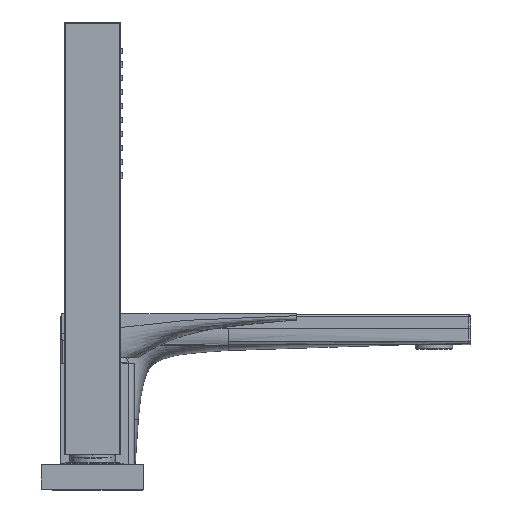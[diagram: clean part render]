
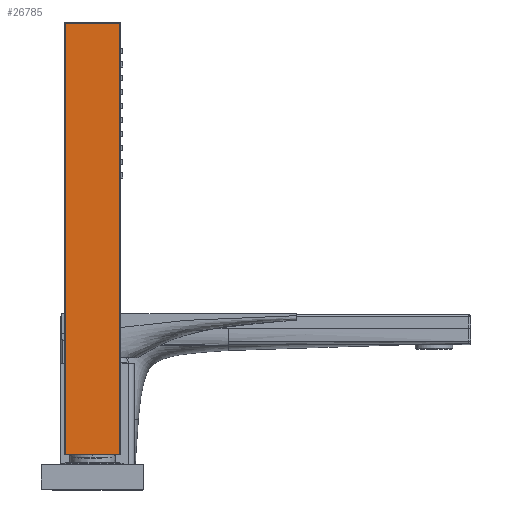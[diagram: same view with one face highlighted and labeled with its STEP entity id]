
A CAD part, top view. The second image highlights one B-rep face of the part: STEP entity #26785.
In plain terms, the highlighted planar face has unit normal (0, 0, 1).
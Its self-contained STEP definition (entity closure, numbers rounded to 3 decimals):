
#23515=DIRECTION('',(1.,0.,0.));
#23516=VECTOR('',#23515,26.5);
#23517=CARTESIAN_POINT('',(-15.75,17.,193.75));
#23518=LINE('',#23517,#23516);
#23529=DIRECTION('',(0.,-1.,0.));
#23530=VECTOR('',#23529,211.5);
#23531=CARTESIAN_POINT('',(10.75,228.5,193.75));
#23532=LINE('',#23531,#23530);
#23533=DIRECTION('',(0.,-1.,0.));
#23534=VECTOR('',#23533,211.5);
#23535=CARTESIAN_POINT('',(-15.75,228.5,193.75));
#23536=LINE('',#23535,#23534);
#23537=DIRECTION('',(1.,0.,0.));
#23538=VECTOR('',#23537,26.5);
#23539=CARTESIAN_POINT('',(-15.75,228.5,193.75));
#23540=LINE('',#23539,#23538);
#26082=CARTESIAN_POINT('',(10.75,17.,193.75));
#26084=VERTEX_POINT('',#26082);
#26085=CARTESIAN_POINT('',(10.75,228.5,193.75));
#26086=VERTEX_POINT('',#26085);
#26089=CARTESIAN_POINT('',(-15.75,228.5,193.75));
#26090=VERTEX_POINT('',#26089);
#26091=CARTESIAN_POINT('',(-15.75,17.,193.75));
#26093=VERTEX_POINT('',#26091);
#26774=CARTESIAN_POINT('',(-16.25,17.,193.75));
#26775=DIRECTION('',(0.,0.,1.));
#26776=DIRECTION('',(1.,0.,0.));
#26777=AXIS2_PLACEMENT_3D('',#26774,#26775,#26776);
#26778=PLANE('',#26777);
#26779=ORIENTED_EDGE('',*,*,#26767,.T.);
#26780=ORIENTED_EDGE('',*,*,#26750,.F.);
#26781=ORIENTED_EDGE('',*,*,#26729,.F.);
#26782=ORIENTED_EDGE('',*,*,#26668,.T.);
#26783=EDGE_LOOP('',(#26779,#26780,#26781,#26782));
#26784=FACE_OUTER_BOUND('',#26783,.F.);
#26785=ADVANCED_FACE('',(#26784),#26778,.T.);
#26668=EDGE_CURVE('',#26090,#26086,#23540,.T.);
#26729=EDGE_CURVE('',#26090,#26093,#23536,.T.);
#26750=EDGE_CURVE('',#26093,#26084,#23518,.T.);
#26767=EDGE_CURVE('',#26086,#26084,#23532,.T.);
